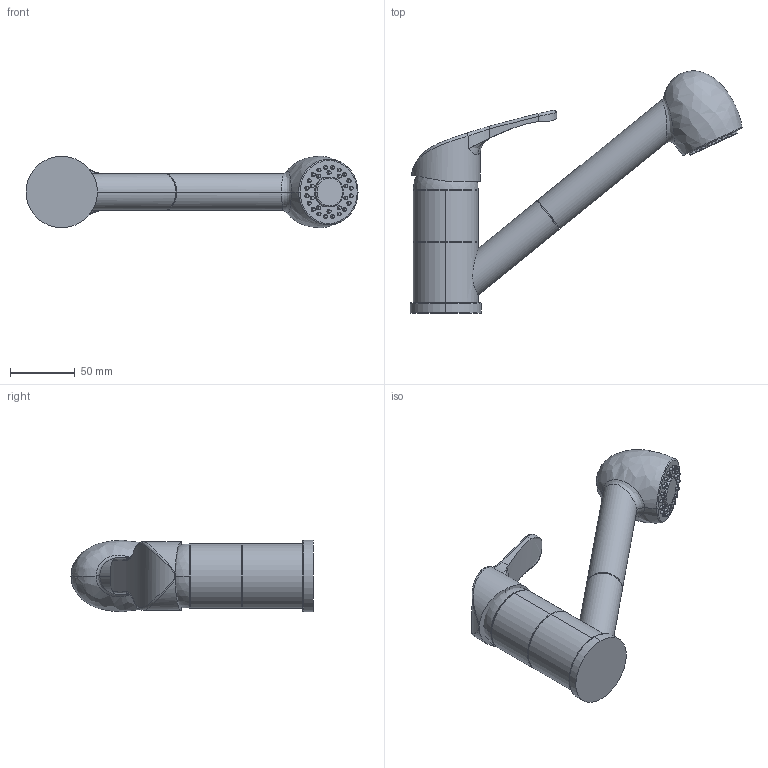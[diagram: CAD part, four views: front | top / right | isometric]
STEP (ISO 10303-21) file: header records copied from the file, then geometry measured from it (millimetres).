
FILE_DESCRIPTION (( 'STEP AP214' ), '1' );
FILE_NAME ('42CR568LMKM(Ñ ïîïðàâêàìè).STEP', '2020-04-13T09:28:29', ( '' ), ( '' ), 'SwSTEP 2.0', 'SolidWorks 2017', '' );
FILE_SCHEMA (( 'AUTOMOTIVE_DESIGN' ));
Length unit declared in the file: millimetre
Products named in the file (3): 扰鳧; Ðó÷êà(Ïðàâèëüíàÿ); 42CR568LMKM(Ñ ïîïðàâêàìè)
Assembly tree (2 placements, depth 2):
  42CR568LMKM(Ñ ïîïðàâêàìè)
    扰鳧
    Ðó÷êà(Ïðàâèëüíàÿ)
Bounding box: 255.72 x 186.49 x 55 mm (x, y, z)
Volume: 522760.2 mm3; surface area: 62395.6 mm2
Topology: 2 solids, 2 shells, 173 faces, 372 edges, 238 vertices
Faces by surface type: cone 63, plane 50, cylinder 26, bspline 24, torus 8, sphere 2
Entity records: 7484 total; most frequent: CARTESIAN_POINT 3692, DIRECTION 802, ORIENTED_EDGE 730, EDGE_CURVE 365, AXIS2_PLACEMENT_3D 354, VERTEX_POINT 236, EDGE_LOOP 213, CIRCLE 200
